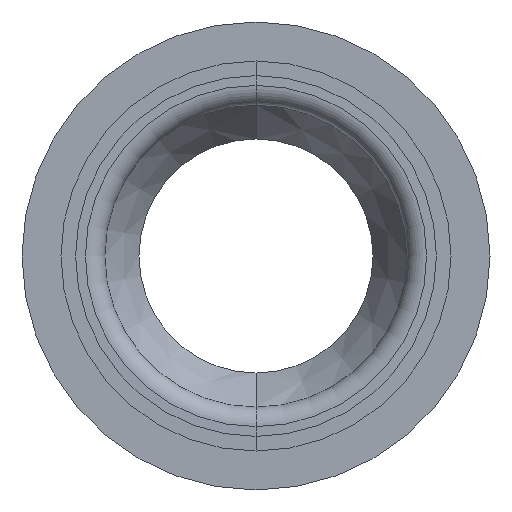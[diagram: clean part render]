
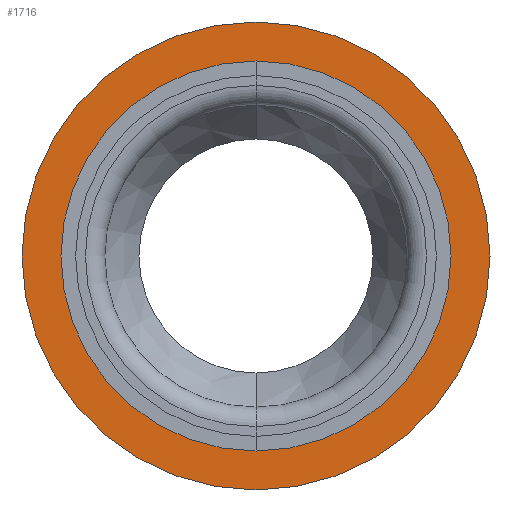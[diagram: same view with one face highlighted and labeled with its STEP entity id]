
A CAD part, front view. The second image highlights one B-rep face of the part: STEP entity #1716.
In plain terms, the highlighted planar face has unit normal (0, -1, 0).
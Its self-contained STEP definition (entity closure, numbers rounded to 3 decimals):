
#701 = VERTEX_POINT ( 'NONE', #2634 ) ;
#702 = VERTEX_POINT ( 'NONE', #2653 ) ;
#703 = EDGE_CURVE ( 'NONE', #702, #701, #2622, .T. ) ;
#820 = VERTEX_POINT ( 'NONE', #2987 ) ;
#827 = EDGE_CURVE ( 'NONE', #820, #834, #2940, .T. ) ;
#834 = VERTEX_POINT ( 'NONE', #2927 ) ;
#1714 = ORIENTED_EDGE ( 'NONE', *, *, #1722, .T. ) ;
#1716 = ADVANCED_FACE ( 'NONE', ( #4416, #4314 ), #4313, .F. ) ;
#1717 = ORIENTED_EDGE ( 'NONE', *, *, #703, .F. ) ;
#1718 = ORIENTED_EDGE ( 'NONE', *, *, #827, .T. ) ;
#1719 = ORIENTED_EDGE ( 'NONE', *, *, #1730, .F. ) ;
#1721 = EDGE_LOOP ( 'NONE', ( #1717, #1719 ) ) ;
#1722 = EDGE_CURVE ( 'NONE', #834, #820, #4303, .T. ) ;
#1723 = EDGE_LOOP ( 'NONE', ( #1718, #1714 ) ) ;
#1730 = EDGE_CURVE ( 'NONE', #701, #702, #4290, .T. ) ;
#2622 = CIRCLE ( 'NONE', #2658, 9.25 ) ;
#2634 = CARTESIAN_POINT ( 'NONE',  ( 0., -25., 9.25 ) ) ;
#2652 = CARTESIAN_POINT ( 'NONE',  ( 0., -25., 0. ) ) ;
#2653 = CARTESIAN_POINT ( 'NONE',  ( 0., -25., -9.25 ) ) ;
#2658 = AXIS2_PLACEMENT_3D ( 'NONE', #2652, #2667, #2666 ) ;
#2666 = DIRECTION ( 'NONE',  ( 0., 0., -1. ) ) ;
#2667 = DIRECTION ( 'NONE',  ( 0., -1., 0. ) ) ;
#2927 = CARTESIAN_POINT ( 'NONE',  ( 0., -25., 12. ) ) ;
#2931 = DIRECTION ( 'NONE',  ( 0., 0., -1. ) ) ;
#2932 = DIRECTION ( 'NONE',  ( 0., -1., 0. ) ) ;
#2933 = CARTESIAN_POINT ( 'NONE',  ( 0., -25., 0. ) ) ;
#2940 = CIRCLE ( 'NONE', #2941, 12. ) ;
#2941 = AXIS2_PLACEMENT_3D ( 'NONE', #2933, #2932, #2931 ) ;
#2987 = CARTESIAN_POINT ( 'NONE',  ( 0., -25., -12. ) ) ;
#4290 = CIRCLE ( 'NONE', #4479, 9.25 ) ;
#4297 = CARTESIAN_POINT ( 'NONE',  ( 0., -25., 0. ) ) ;
#4299 = DIRECTION ( 'NONE',  ( 0., 0., -1. ) ) ;
#4300 = DIRECTION ( 'NONE',  ( 0., -1., 0. ) ) ;
#4301 = CARTESIAN_POINT ( 'NONE',  ( 0., -25., 0. ) ) ;
#4303 = CIRCLE ( 'NONE', #4424, 12. ) ;
#4304 = DIRECTION ( 'NONE',  ( 0., 0., 1. ) ) ;
#4305 = DIRECTION ( 'NONE',  ( 0., 1., 0. ) ) ;
#4306 = CARTESIAN_POINT ( 'NONE',  ( -11.5, -25., 0. ) ) ;
#4313 = PLANE ( 'NONE',  #4420 ) ;
#4314 = FACE_OUTER_BOUND ( 'NONE', #1723, .T. ) ;
#4416 = FACE_BOUND ( 'NONE', #1721, .T. ) ;
#4420 = AXIS2_PLACEMENT_3D ( 'NONE', #4306, #4305, #4304 ) ;
#4424 = AXIS2_PLACEMENT_3D ( 'NONE', #4301, #4300, #4299 ) ;
#4477 = DIRECTION ( 'NONE',  ( 0., 0., -1. ) ) ;
#4478 = DIRECTION ( 'NONE',  ( 0., -1., 0. ) ) ;
#4479 = AXIS2_PLACEMENT_3D ( 'NONE', #4297, #4478, #4477 ) ;
